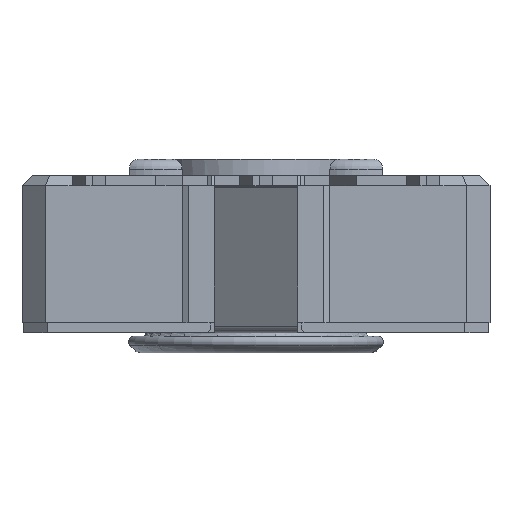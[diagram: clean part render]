
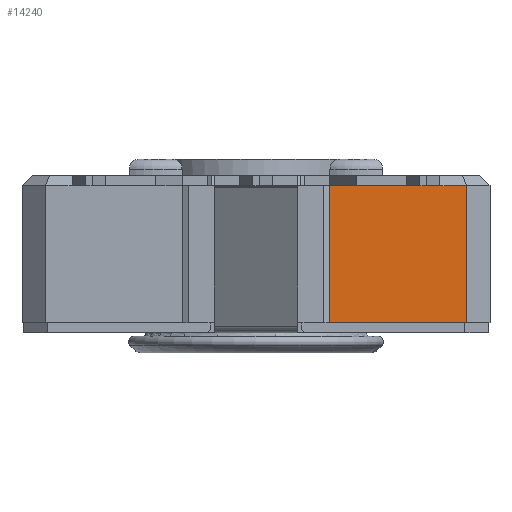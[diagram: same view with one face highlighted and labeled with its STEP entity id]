
A CAD part, front view. The second image highlights one B-rep face of the part: STEP entity #14240.
In plain terms, the highlighted planar face has unit normal (0, -1, 0).
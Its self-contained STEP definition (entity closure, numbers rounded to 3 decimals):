
#1293=FACE_OUTER_BOUND('',#2027,.T.);
#2027=EDGE_LOOP('',(#12184,#12185,#12186,#12187,#12188,#12189));
#2087=LINE('',#19045,#3642);
#2311=LINE('',#19690,#3866);
#2910=LINE('',#21483,#4465);
#3184=LINE('',#22379,#4739);
#3576=LINE('',#23221,#5131);
#3578=LINE('',#23225,#5133);
#3642=VECTOR('',#15383,10.);
#3866=VECTOR('',#15953,10.);
#4465=VECTOR('',#17284,10.);
#4739=VECTOR('',#17982,10.);
#5131=VECTOR('',#18842,10.);
#5133=VECTOR('',#18848,10.);
#5199=VERTEX_POINT('',#19043);
#5200=VERTEX_POINT('',#19044);
#5394=VERTEX_POINT('',#19689);
#5939=VERTEX_POINT('',#21480);
#5940=VERTEX_POINT('',#21482);
#6210=VERTEX_POINT('',#22374);
#6470=EDGE_CURVE('',#5199,#5200,#2087,.T.);
#6766=EDGE_CURVE('',#5394,#5199,#2311,.T.);
#7548=EDGE_CURVE('',#5939,#5940,#2910,.T.);
#7932=EDGE_CURVE('',#5394,#6210,#3184,.T.);
#8349=EDGE_CURVE('',#5200,#5940,#3576,.T.);
#8351=EDGE_CURVE('',#5939,#6210,#3578,.T.);
#12184=ORIENTED_EDGE('',*,*,#7932,.F.);
#12185=ORIENTED_EDGE('',*,*,#6766,.T.);
#12186=ORIENTED_EDGE('',*,*,#6470,.T.);
#12187=ORIENTED_EDGE('',*,*,#8349,.T.);
#12188=ORIENTED_EDGE('',*,*,#7548,.F.);
#12189=ORIENTED_EDGE('',*,*,#8351,.T.);
#12852=PLANE('',#15291);
#14240=ADVANCED_FACE('',(#1293),#12852,.T.);
#15291=AXIS2_PLACEMENT_3D('',#23224,#18846,#18847);
#15383=DIRECTION('',(-1.,0.,0.));
#15953=DIRECTION('',(-1.,0.,0.));
#17284=DIRECTION('',(-1.,0.,0.));
#17982=DIRECTION('',(1.,0.,0.));
#18842=DIRECTION('',(0.,0.,-1.));
#18846=DIRECTION('center_axis',(0.,-1.,0.));
#18847=DIRECTION('ref_axis',(0.,0.,-1.));
#18848=DIRECTION('',(0.,0.,1.));
#19043=CARTESIAN_POINT('',(4.7,-6.95,1.875));
#19044=CARTESIAN_POINT('',(2.2,-6.95,1.875));
#19045=CARTESIAN_POINT('',(5.072,-6.95,1.875));
#19689=CARTESIAN_POINT('',(5.225,-6.95,1.875));
#19690=CARTESIAN_POINT('',(5.072,-6.95,1.875));
#21480=CARTESIAN_POINT('',(6.3,-6.95,-2.225));
#21482=CARTESIAN_POINT('',(2.2,-6.95,-2.225));
#21483=CARTESIAN_POINT('',(6.3,-6.95,-2.225));
#22374=CARTESIAN_POINT('',(6.3,-6.95,1.875));
#22379=CARTESIAN_POINT('',(3.15,-6.95,1.875));
#23221=CARTESIAN_POINT('',(2.2,-6.95,-2.225));
#23224=CARTESIAN_POINT('Origin',(6.3,-6.95,-2.225));
#23225=CARTESIAN_POINT('',(6.3,-6.95,-2.225));
